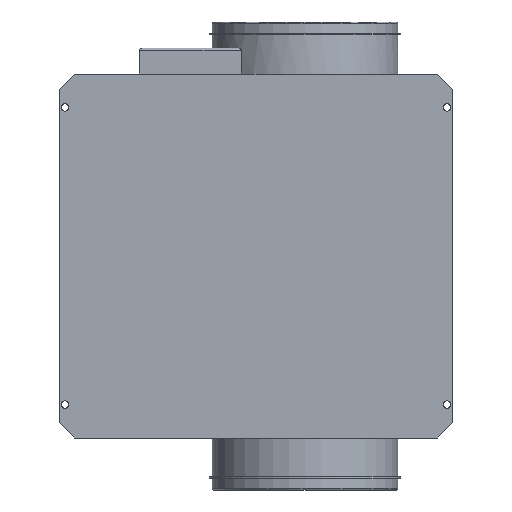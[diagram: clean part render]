
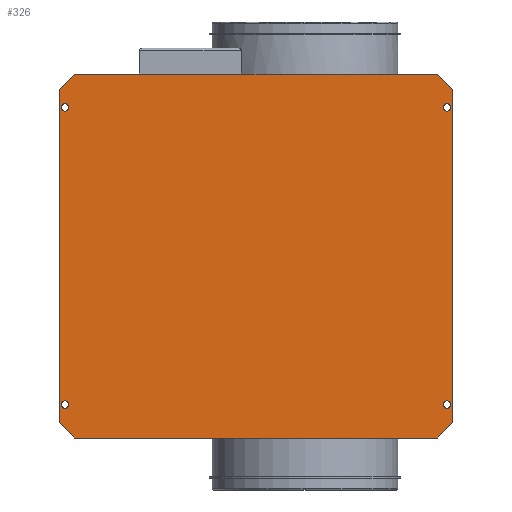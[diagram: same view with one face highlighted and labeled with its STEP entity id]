
A CAD part, front view. The second image highlights one B-rep face of the part: STEP entity #326.
In plain terms, the highlighted planar face has unit normal (0, -1, 0).
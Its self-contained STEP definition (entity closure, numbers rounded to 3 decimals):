
#326=ADVANCED_FACE('',(#677,#678,#679,#680,#681),#682,.F.);
#677=FACE_OUTER_BOUND('',#1031,.T.);
#678=FACE_BOUND('',#1032,.T.);
#679=FACE_BOUND('',#1033,.T.);
#680=FACE_BOUND('',#1034,.T.);
#681=FACE_BOUND('',#1035,.T.);
#682=PLANE('',#1036);
#1031=EDGE_LOOP('',(#1953,#1954,#1955,#1956,#1957,#1958,#1959,#1960));
#1032=EDGE_LOOP('',(#1961,#1962));
#1033=EDGE_LOOP('',(#1963,#1964));
#1034=EDGE_LOOP('',(#1965,#1966));
#1035=EDGE_LOOP('',(#1967,#1968));
#1036=AXIS2_PLACEMENT_3D('',#1969,#1970,#1971);
#1953=ORIENTED_EDGE('',*,*,#2369,.T.);
#1954=ORIENTED_EDGE('',*,*,#2224,.F.);
#1955=ORIENTED_EDGE('',*,*,#2382,.T.);
#1956=ORIENTED_EDGE('',*,*,#2379,.T.);
#1957=ORIENTED_EDGE('',*,*,#2376,.T.);
#1958=ORIENTED_EDGE('',*,*,#2425,.F.);
#1959=ORIENTED_EDGE('',*,*,#2384,.T.);
#1960=ORIENTED_EDGE('',*,*,#2372,.F.);
#1961=ORIENTED_EDGE('',*,*,#2393,.T.);
#1962=ORIENTED_EDGE('',*,*,#2054,.T.);
#1963=ORIENTED_EDGE('',*,*,#2391,.T.);
#1964=ORIENTED_EDGE('',*,*,#2059,.T.);
#1965=ORIENTED_EDGE('',*,*,#2389,.T.);
#1966=ORIENTED_EDGE('',*,*,#2064,.T.);
#1967=ORIENTED_EDGE('',*,*,#2387,.T.);
#1968=ORIENTED_EDGE('',*,*,#2069,.T.);
#1969=CARTESIAN_POINT('',(0.0,-182.0,0.0));
#1970=DIRECTION('',(0.0,1.0,-0.0));
#1971=DIRECTION('',(-0.0,0.0,1.0));
#2054=EDGE_CURVE('',#2455,#2459,#2461,.T.);
#2059=EDGE_CURVE('',#2464,#2468,#2470,.T.);
#2064=EDGE_CURVE('',#2473,#2477,#2479,.T.);
#2069=EDGE_CURVE('',#2482,#2486,#2488,.T.);
#2224=EDGE_CURVE('',#2746,#2748,#2749,.T.);
#2369=EDGE_CURVE('',#2944,#2748,#2945,.T.);
#2372=EDGE_CURVE('',#2944,#2948,#2949,.T.);
#2376=EDGE_CURVE('',#2954,#2952,#2955,.T.);
#2379=EDGE_CURVE('',#2958,#2954,#2959,.T.);
#2382=EDGE_CURVE('',#2746,#2958,#2962,.T.);
#2384=EDGE_CURVE('',#2964,#2948,#2965,.T.);
#2387=EDGE_CURVE('',#2486,#2482,#2968,.T.);
#2389=EDGE_CURVE('',#2477,#2473,#2970,.T.);
#2391=EDGE_CURVE('',#2468,#2464,#2972,.T.);
#2393=EDGE_CURVE('',#2459,#2455,#2974,.T.);
#2425=EDGE_CURVE('',#2964,#2952,#3016,.T.);
#2455=VERTEX_POINT('',#3090);
#2459=VERTEX_POINT('',#3095);
#2461=CIRCLE('',#3098,5.0);
#2464=VERTEX_POINT('',#3101);
#2468=VERTEX_POINT('',#3106);
#2470=CIRCLE('',#3109,5.0);
#2473=VERTEX_POINT('',#3112);
#2477=VERTEX_POINT('',#3117);
#2479=CIRCLE('',#3120,5.0);
#2482=VERTEX_POINT('',#3123);
#2486=VERTEX_POINT('',#3128);
#2488=CIRCLE('',#3131,5.0);
#2746=VERTEX_POINT('',#3540);
#2748=VERTEX_POINT('',#3543);
#2749=LINE('',#3544,#3545);
#2944=VERTEX_POINT('',#3794);
#2945=LINE('',#3795,#3796);
#2948=VERTEX_POINT('',#3800);
#2949=LINE('',#3801,#3802);
#2952=VERTEX_POINT('',#3806);
#2954=VERTEX_POINT('',#3809);
#2955=LINE('',#3810,#3811);
#2958=VERTEX_POINT('',#3815);
#2959=LINE('',#3816,#3817);
#2962=LINE('',#3821,#3822);
#2964=VERTEX_POINT('',#3824);
#2965=LINE('',#3825,#3826);
#2968=CIRCLE('',#3830,5.0);
#2970=CIRCLE('',#3832,5.0);
#2972=CIRCLE('',#3834,5.0);
#2974=CIRCLE('',#3836,5.0);
#3016=LINE('',#3887,#3888);
#3090=CARTESIAN_POINT('',(-252.0,-182.0,-200.0));
#3095=CARTESIAN_POINT('',(-262.0,-182.0,-200.0));
#3098=AXIS2_PLACEMENT_3D('',#3917,#3918,#3919);
#3101=CARTESIAN_POINT('',(-252.0,-182.0,200.0));
#3106=CARTESIAN_POINT('',(-262.0,-182.0,200.0));
#3109=AXIS2_PLACEMENT_3D('',#3925,#3926,#3927);
#3112=CARTESIAN_POINT('',(262.0,-182.0,200.0));
#3117=CARTESIAN_POINT('',(252.0,-182.0,200.0));
#3120=AXIS2_PLACEMENT_3D('',#3933,#3934,#3935);
#3123=CARTESIAN_POINT('',(262.0,-182.0,-200.0));
#3128=CARTESIAN_POINT('',(252.0,-182.0,-200.0));
#3131=AXIS2_PLACEMENT_3D('',#3941,#3942,#3943);
#3540=CARTESIAN_POINT('',(-244.0,-182.0,245.0));
#3543=CARTESIAN_POINT('',(244.0,-182.0,245.0));
#3544=CARTESIAN_POINT('',(0.0,-182.0,245.0));
#3545=VECTOR('',#4163,1.0);
#3794=CARTESIAN_POINT('',(265.0,-182.0,224.0));
#3795=CARTESIAN_POINT('',(249.5,-182.0,239.5));
#3796=VECTOR('',#4359,1.0);
#3800=CARTESIAN_POINT('',(265.0,-182.0,-224.0));
#3801=CARTESIAN_POINT('',(265.0,-182.0,0.0));
#3802=VECTOR('',#4361,1.0);
#3806=CARTESIAN_POINT('',(-244.0,-182.0,-245.0));
#3809=CARTESIAN_POINT('',(-265.0,-182.0,-224.0));
#3810=CARTESIAN_POINT('',(-249.5,-182.0,-239.5));
#3811=VECTOR('',#4364,1.0);
#3815=CARTESIAN_POINT('',(-265.0,-182.0,224.0));
#3816=CARTESIAN_POINT('',(-265.0,-182.0,0.0));
#3817=VECTOR('',#4366,1.0);
#3821=CARTESIAN_POINT('',(-249.5,-182.0,239.5));
#3822=VECTOR('',#4368,1.0);
#3824=CARTESIAN_POINT('',(244.0,-182.0,-245.0));
#3825=CARTESIAN_POINT('',(249.5,-182.0,-239.5));
#3826=VECTOR('',#4369,1.0);
#3830=AXIS2_PLACEMENT_3D('',#4371,#4372,#4373);
#3832=AXIS2_PLACEMENT_3D('',#4374,#4375,#4376);
#3834=AXIS2_PLACEMENT_3D('',#4377,#4378,#4379);
#3836=AXIS2_PLACEMENT_3D('',#4380,#4381,#4382);
#3887=CARTESIAN_POINT('',(0.0,-182.0,-245.0));
#3888=VECTOR('',#4428,1.0);
#3917=CARTESIAN_POINT('',(-257.0,-182.0,-200.0));
#3918=DIRECTION('',(-0.0,1.0,0.0));
#3919=DIRECTION('',(1.0,0.0,0.0));
#3925=CARTESIAN_POINT('',(-257.0,-182.0,200.0));
#3926=DIRECTION('',(-0.0,1.0,0.0));
#3927=DIRECTION('',(1.0,0.0,0.0));
#3933=CARTESIAN_POINT('',(257.0,-182.0,200.0));
#3934=DIRECTION('',(-0.0,1.0,0.0));
#3935=DIRECTION('',(1.0,0.0,0.0));
#3941=CARTESIAN_POINT('',(257.0,-182.0,-200.0));
#3942=DIRECTION('',(-0.0,1.0,0.0));
#3943=DIRECTION('',(1.0,0.0,0.0));
#4163=DIRECTION('',(1.0,0.0,0.0));
#4359=DIRECTION('',(-0.707,0.0,0.707));
#4361=DIRECTION('',(0.0,0.0,-1.0));
#4364=DIRECTION('',(0.707,0.0,-0.707));
#4366=DIRECTION('',(0.0,0.0,-1.0));
#4368=DIRECTION('',(-0.707,0.0,-0.707));
#4369=DIRECTION('',(0.707,-0.0,0.707));
#4371=CARTESIAN_POINT('',(257.0,-182.0,-200.0));
#4372=DIRECTION('',(-0.0,1.0,0.0));
#4373=DIRECTION('',(1.0,0.0,0.0));
#4374=CARTESIAN_POINT('',(257.0,-182.0,200.0));
#4375=DIRECTION('',(-0.0,1.0,0.0));
#4376=DIRECTION('',(1.0,0.0,0.0));
#4377=CARTESIAN_POINT('',(-257.0,-182.0,200.0));
#4378=DIRECTION('',(-0.0,1.0,0.0));
#4379=DIRECTION('',(1.0,0.0,0.0));
#4380=CARTESIAN_POINT('',(-257.0,-182.0,-200.0));
#4381=DIRECTION('',(-0.0,1.0,0.0));
#4382=DIRECTION('',(1.0,0.0,0.0));
#4428=DIRECTION('',(-1.0,0.0,0.0));
